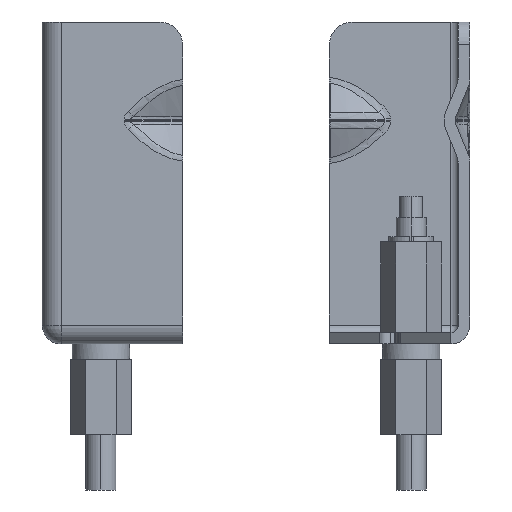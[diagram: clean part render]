
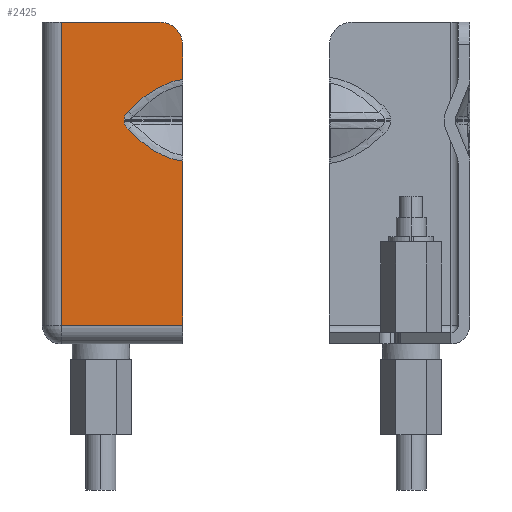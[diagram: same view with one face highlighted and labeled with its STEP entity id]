
A CAD part, left-side view. The second image highlights one B-rep face of the part: STEP entity #2425.
In plain terms, the highlighted planar face has unit normal (-1, 0, 0).
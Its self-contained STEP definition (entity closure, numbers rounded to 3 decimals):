
#291=DIRECTION('',(0.,1.,0.));
#292=VECTOR('',#291,16.045);
#293=CARTESIAN_POINT('',(-28.256,9.711,-34.8));
#294=LINE('',#293,#292);
#367=CARTESIAN_POINT('',(-28.256,9.711,-13.145));
#488=CARTESIAN_POINT('',(-28.256,9.711,-13.145));
#489=CARTESIAN_POINT('',(-28.256,10.06,-13.102));
#490=CARTESIAN_POINT('',(-28.256,10.751,-12.966));
#491=CARTESIAN_POINT('',(-28.256,11.924,-12.58));
#492=CARTESIAN_POINT('',(-28.256,13.195,-11.957));
#493=CARTESIAN_POINT('',(-28.256,14.525,-11.079));
#494=CARTESIAN_POINT('',(-28.256,15.762,-10.078));
#495=CARTESIAN_POINT('',(-28.256,16.534,-9.353));
#496=CARTESIAN_POINT('',(-28.256,16.909,-8.98));
#498=DIRECTION('',(0.,0.,1.));
#499=VECTOR('',#498,21.655);
#500=CARTESIAN_POINT('',(-28.256,9.711,-34.8));
#501=LINE('',#500,#499);
#502=CARTESIAN_POINT('',(-28.256,12.711,2.25));
#503=DIRECTION('',(-1.,0.,0.));
#504=DIRECTION('',(0.,-1.,0.));
#505=AXIS2_PLACEMENT_3D('',#502,#503,#504);
#507=DIRECTION('',(0.,0.,1.));
#508=VECTOR('',#507,4.605);
#509=CARTESIAN_POINT('',(-28.256,9.711,-2.355));
#510=LINE('',#509,#508);
#511=CARTESIAN_POINT('',(-28.256,16.909,-6.52));
#512=CARTESIAN_POINT('',(-28.256,16.534,-6.147));
#513=CARTESIAN_POINT('',(-28.256,15.762,-5.422));
#514=CARTESIAN_POINT('',(-28.256,14.525,-4.421));
#515=CARTESIAN_POINT('',(-28.256,13.195,-3.543));
#516=CARTESIAN_POINT('',(-28.256,11.924,-2.92));
#517=CARTESIAN_POINT('',(-28.256,10.751,-2.534));
#518=CARTESIAN_POINT('',(-28.256,10.06,-2.398));
#519=CARTESIAN_POINT('',(-28.256,9.711,-2.355));
#521=CARTESIAN_POINT('',(-28.256,17.435,-7.569));
#522=CARTESIAN_POINT('',(-28.256,17.429,-7.461));
#523=CARTESIAN_POINT('',(-28.256,17.389,-7.249));
#524=CARTESIAN_POINT('',(-28.256,17.264,-6.966));
#525=CARTESIAN_POINT('',(-28.256,17.099,-6.724));
#526=CARTESIAN_POINT('',(-28.256,16.974,-6.585));
#527=CARTESIAN_POINT('',(-28.256,16.909,-6.52));
#529=CARTESIAN_POINT('',(-28.256,17.442,-7.75));
#530=CARTESIAN_POINT('',(-28.256,17.441,-7.69));
#531=CARTESIAN_POINT('',(-28.256,17.439,-7.629));
#532=CARTESIAN_POINT('',(-28.256,17.435,-7.569));
#534=CARTESIAN_POINT('',(-28.256,17.435,-7.931));
#535=CARTESIAN_POINT('',(-28.256,17.439,-7.871));
#536=CARTESIAN_POINT('',(-28.256,17.441,-7.811));
#537=CARTESIAN_POINT('',(-28.256,17.442,-7.75));
#539=CARTESIAN_POINT('',(-28.256,16.909,-8.98));
#540=CARTESIAN_POINT('',(-28.256,16.991,-8.899));
#541=CARTESIAN_POINT('',(-28.256,17.147,-8.721));
#542=CARTESIAN_POINT('',(-28.256,17.312,-8.442));
#543=CARTESIAN_POINT('',(-28.256,17.406,-8.171));
#544=CARTESIAN_POINT('',(-28.256,17.431,-8.012));
#545=CARTESIAN_POINT('',(-28.256,17.435,-7.931));
#547=DIRECTION('',(0.,0.,1.));
#548=VECTOR('',#547,40.05);
#549=CARTESIAN_POINT('',(-28.256,25.756,-34.8));
#550=LINE('',#549,#548);
#564=DIRECTION('',(0.,-1.,0.));
#565=VECTOR('',#564,13.045);
#566=CARTESIAN_POINT('',(-28.256,25.756,5.25));
#567=LINE('',#566,#565);
#1347=CARTESIAN_POINT('',(-28.256,25.756,5.25));
#1348=VERTEX_POINT('',#1347);
#1349=CARTESIAN_POINT('',(-28.256,12.711,5.25));
#1350=VERTEX_POINT('',#1349);
#1403=CARTESIAN_POINT('',(-28.256,25.756,-34.8));
#1404=VERTEX_POINT('',#1403);
#1407=CARTESIAN_POINT('',(-28.256,9.711,2.25));
#1408=VERTEX_POINT('',#1407);
#1475=CARTESIAN_POINT('',(-28.256,9.711,-34.8));
#1476=VERTEX_POINT('',#1475);
#1526=VERTEX_POINT('',#367);
#1527=CARTESIAN_POINT('',(-28.256,9.711,
-2.355));
#1528=VERTEX_POINT('',#1527);
#1529=VERTEX_POINT('',#496);
#1530=VERTEX_POINT('',#545);
#1531=VERTEX_POINT('',#537);
#1532=VERTEX_POINT('',#532);
#1533=VERTEX_POINT('',#527);
#2402=CARTESIAN_POINT('',(-28.256,8.711,0.));
#2403=DIRECTION('',(1.,0.,0.));
#2404=DIRECTION('',(0.,1.,0.));
#2405=AXIS2_PLACEMENT_3D('',#2402,#2403,#2404);
#2406=PLANE('',#2405);
#2407=ORIENTED_EDGE('',*,*,#2394,.F.);
#2408=ORIENTED_EDGE('',*,*,#2071,.F.);
#2409=ORIENTED_EDGE('',*,*,#2026,.T.);
#2411=ORIENTED_EDGE('',*,*,#2410,.T.);
#2413=ORIENTED_EDGE('',*,*,#2412,.T.);
#2415=ORIENTED_EDGE('',*,*,#2414,.F.);
#2416=ORIENTED_EDGE('',*,*,#2040,.F.);
#2418=ORIENTED_EDGE('',*,*,#2417,.F.);
#2419=ORIENTED_EDGE('',*,*,#2165,.F.);
#2420=ORIENTED_EDGE('',*,*,#2196,.F.);
#2421=ORIENTED_EDGE('',*,*,#2230,.F.);
#2422=ORIENTED_EDGE('',*,*,#2349,.F.);
#2423=EDGE_LOOP('',(#2407,#2408,#2409,#2411,#2413,#2415,#2416,#2418,#2419,#2420,
#2421,#2422));
#2424=FACE_OUTER_BOUND('',#2423,.F.);
#2425=ADVANCED_FACE('',(#2424),#2406,.F.);
#497=B_SPLINE_CURVE_WITH_KNOTS('',3,(#488,#489,#490,#491,#492,#493,#494,#495,
#496),.UNSPECIFIED.,.F.,.F.,(4,1,1,1,1,1,4),(0.,0.124,
0.249,0.437,0.624,0.812,1.),
.UNSPECIFIED.);
#506=CIRCLE('',#505,3.);
#520=B_SPLINE_CURVE_WITH_KNOTS('',3,(#511,#512,#513,#514,#515,#516,#517,#518,
#519),.UNSPECIFIED.,.F.,.F.,(4,1,1,1,1,1,4),(0.,0.188,
0.376,0.563,0.751,0.876,1.),
.UNSPECIFIED.);
#528=B_SPLINE_CURVE_WITH_KNOTS('',3,(#521,#522,#523,#524,#525,#526,#527),
.UNSPECIFIED.,.F.,.F.,(4,1,1,1,4),(0.,0.255,0.51,
0.755,1.),.UNSPECIFIED.);
#533=B_SPLINE_CURVE_WITH_KNOTS('',3,(#529,#530,#531,#532),.UNSPECIFIED.,.F.,.F.,
(4,4),(0.,1.),.UNSPECIFIED.);
#538=B_SPLINE_CURVE_WITH_KNOTS('',3,(#534,#535,#536,#537),.UNSPECIFIED.,.F.,.F.,
(4,4),(0.,1.),.UNSPECIFIED.);
#546=B_SPLINE_CURVE_WITH_KNOTS('',3,(#539,#540,#541,#542,#543,#544,#545),
.UNSPECIFIED.,.F.,.F.,(4,1,1,1,4),(0.,0.309,0.619,
0.809,1.),.UNSPECIFIED.);
#2026=EDGE_CURVE('',#1476,#1404,#294,.T.);
#2040=EDGE_CURVE('',#1528,#1408,#510,.T.);
#2071=EDGE_CURVE('',#1476,#1526,#501,.T.);
#2165=EDGE_CURVE('',#1532,#1533,#528,.T.);
#2196=EDGE_CURVE('',#1531,#1532,#533,.T.);
#2230=EDGE_CURVE('',#1530,#1531,#538,.T.);
#2349=EDGE_CURVE('',#1529,#1530,#546,.T.);
#2394=EDGE_CURVE('',#1526,#1529,#497,.T.);
#2410=EDGE_CURVE('',#1404,#1348,#550,.T.);
#2412=EDGE_CURVE('',#1348,#1350,#567,.T.);
#2414=EDGE_CURVE('',#1408,#1350,#506,.T.);
#2417=EDGE_CURVE('',#1533,#1528,#520,.T.);
